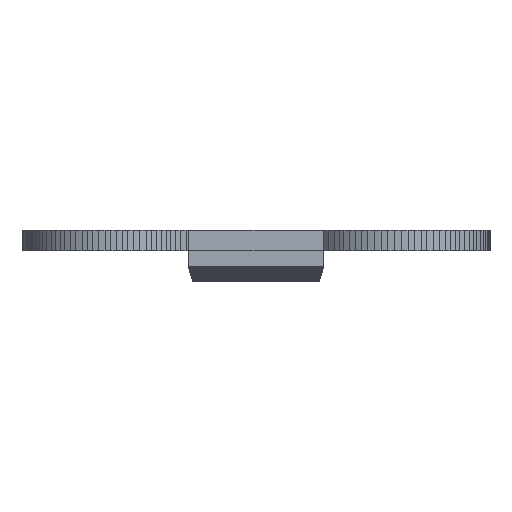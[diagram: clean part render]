
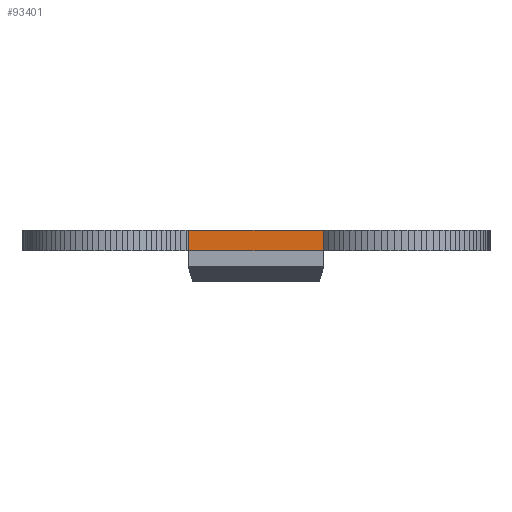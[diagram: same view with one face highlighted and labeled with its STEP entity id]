
A CAD part, front view. The second image highlights one B-rep face of the part: STEP entity #93401.
In plain terms, the highlighted planar face has unit normal (0, -1, 0).
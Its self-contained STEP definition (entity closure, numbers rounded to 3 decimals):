
#32 = PLANE('',#33);
#33 = AXIS2_PLACEMENT_3D('',#34,#35,#36);
#34 = CARTESIAN_POINT('',(0.099,-0.561,10.));
#35 = DIRECTION('',(-0.,-0.,-1.));
#36 = DIRECTION('',(-1.,0.,0.));
#421 = VERTEX_POINT('',#422);
#422 = CARTESIAN_POINT('',(13.,-89.,10.));
#436 = PLANE('',#437);
#437 = AXIS2_PLACEMENT_3D('',#438,#439,#440);
#438 = CARTESIAN_POINT('',(13.,-71.,6.));
#439 = DIRECTION('',(1.,0.,-0.));
#440 = DIRECTION('',(0.,-1.,0.));
#448 = EDGE_CURVE('',#421,#449,#451,.T.);
#449 = VERTEX_POINT('',#450);
#450 = CARTESIAN_POINT('',(-13.,-89.,10.));
#451 = SURFACE_CURVE('',#452,(#456,#463),.PCURVE_S1.);
#452 = LINE('',#453,#454);
#453 = CARTESIAN_POINT('',(13.,-89.,10.));
#454 = VECTOR('',#455,1.);
#455 = DIRECTION('',(-1.,0.,0.));
#456 = PCURVE('',#32,#457);
#457 = DEFINITIONAL_REPRESENTATION('',(#458),#462);
#458 = LINE('',#459,#460);
#459 = CARTESIAN_POINT('',(-12.901,-88.439));
#460 = VECTOR('',#461,1.);
#461 = DIRECTION('',(1.,0.));
#462 = ( GEOMETRIC_REPRESENTATION_CONTEXT(2) 
PARAMETRIC_REPRESENTATION_CONTEXT() REPRESENTATION_CONTEXT('2D SPACE',''
  ) );
#463 = PCURVE('',#464,#469);
#464 = PLANE('',#465);
#465 = AXIS2_PLACEMENT_3D('',#466,#467,#468);
#466 = CARTESIAN_POINT('',(13.,-89.,6.));
#467 = DIRECTION('',(0.,-1.,0.));
#468 = DIRECTION('',(-1.,0.,0.));
#469 = DEFINITIONAL_REPRESENTATION('',(#470),#474);
#470 = LINE('',#471,#472);
#471 = CARTESIAN_POINT('',(0.,-4.));
#472 = VECTOR('',#473,1.);
#473 = DIRECTION('',(1.,0.));
#474 = ( GEOMETRIC_REPRESENTATION_CONTEXT(2) 
PARAMETRIC_REPRESENTATION_CONTEXT() REPRESENTATION_CONTEXT('2D SPACE',''
  ) );
#492 = PLANE('',#493);
#493 = AXIS2_PLACEMENT_3D('',#494,#495,#496);
#494 = CARTESIAN_POINT('',(-13.,-89.,6.));
#495 = DIRECTION('',(-1.,0.,0.));
#496 = DIRECTION('',(0.,1.,0.));
#47907 = PLANE('',#47908);
#47908 = AXIS2_PLACEMENT_3D('',#47909,#47910,#47911);
#47909 = CARTESIAN_POINT('',(0.099,-0.561,6.));
#47910 = DIRECTION('',(-0.,-0.,-1.));
#47911 = DIRECTION('',(-1.,0.,0.));
#48095 = VERTEX_POINT('',#48096);
#48096 = CARTESIAN_POINT('',(13.,-89.,6.));
#48117 = EDGE_CURVE('',#48095,#48118,#48120,.T.);
#48118 = VERTEX_POINT('',#48119);
#48119 = CARTESIAN_POINT('',(-13.,-89.,6.));
#48120 = SURFACE_CURVE('',#48121,(#48125,#48132),.PCURVE_S1.);
#48121 = LINE('',#48122,#48123);
#48122 = CARTESIAN_POINT('',(13.,-89.,6.));
#48123 = VECTOR('',#48124,1.);
#48124 = DIRECTION('',(-1.,0.,0.));
#48125 = PCURVE('',#47907,#48126);
#48126 = DEFINITIONAL_REPRESENTATION('',(#48127),#48131);
#48127 = LINE('',#48128,#48129);
#48128 = CARTESIAN_POINT('',(-12.901,-88.439));
#48129 = VECTOR('',#48130,1.);
#48130 = DIRECTION('',(1.,0.));
#48131 = ( GEOMETRIC_REPRESENTATION_CONTEXT(2) 
PARAMETRIC_REPRESENTATION_CONTEXT() REPRESENTATION_CONTEXT('2D SPACE',''
  ) );
#48132 = PCURVE('',#464,#48133);
#48133 = DEFINITIONAL_REPRESENTATION('',(#48134),#48138);
#48134 = LINE('',#48135,#48136);
#48135 = CARTESIAN_POINT('',(0.,-0.));
#48136 = VECTOR('',#48137,1.);
#48137 = DIRECTION('',(1.,0.));
#48138 = ( GEOMETRIC_REPRESENTATION_CONTEXT(2) 
PARAMETRIC_REPRESENTATION_CONTEXT() REPRESENTATION_CONTEXT('2D SPACE',''
  ) );
#93378 = EDGE_CURVE('',#48118,#449,#93379,.T.);
#93379 = SURFACE_CURVE('',#93380,(#93384,#93391),.PCURVE_S1.);
#93380 = LINE('',#93381,#93382);
#93381 = CARTESIAN_POINT('',(-13.,-89.,6.));
#93382 = VECTOR('',#93383,1.);
#93383 = DIRECTION('',(0.,0.,1.));
#93384 = PCURVE('',#492,#93385);
#93385 = DEFINITIONAL_REPRESENTATION('',(#93386),#93390);
#93386 = LINE('',#93387,#93388);
#93387 = CARTESIAN_POINT('',(0.,0.));
#93388 = VECTOR('',#93389,1.);
#93389 = DIRECTION('',(0.,-1.));
#93390 = ( GEOMETRIC_REPRESENTATION_CONTEXT(2) 
PARAMETRIC_REPRESENTATION_CONTEXT() REPRESENTATION_CONTEXT('2D SPACE',''
  ) );
#93391 = PCURVE('',#464,#93392);
#93392 = DEFINITIONAL_REPRESENTATION('',(#93393),#93397);
#93393 = LINE('',#93394,#93395);
#93394 = CARTESIAN_POINT('',(26.,0.));
#93395 = VECTOR('',#93396,1.);
#93396 = DIRECTION('',(0.,-1.));
#93397 = ( GEOMETRIC_REPRESENTATION_CONTEXT(2) 
PARAMETRIC_REPRESENTATION_CONTEXT() REPRESENTATION_CONTEXT('2D SPACE',''
  ) );
#93401 = ADVANCED_FACE('',(#93402),#464,.T.);
#93402 = FACE_BOUND('',#93403,.T.);
#93403 = EDGE_LOOP('',(#93404,#93425,#93426,#93427));
#93404 = ORIENTED_EDGE('',*,*,#93405,.T.);
#93405 = EDGE_CURVE('',#48095,#421,#93406,.T.);
#93406 = SURFACE_CURVE('',#93407,(#93411,#93418),.PCURVE_S1.);
#93407 = LINE('',#93408,#93409);
#93408 = CARTESIAN_POINT('',(13.,-89.,6.));
#93409 = VECTOR('',#93410,1.);
#93410 = DIRECTION('',(0.,0.,1.));
#93411 = PCURVE('',#464,#93412);
#93412 = DEFINITIONAL_REPRESENTATION('',(#93413),#93417);
#93413 = LINE('',#93414,#93415);
#93414 = CARTESIAN_POINT('',(0.,-0.));
#93415 = VECTOR('',#93416,1.);
#93416 = DIRECTION('',(0.,-1.));
#93417 = ( GEOMETRIC_REPRESENTATION_CONTEXT(2) 
PARAMETRIC_REPRESENTATION_CONTEXT() REPRESENTATION_CONTEXT('2D SPACE',''
  ) );
#93418 = PCURVE('',#436,#93419);
#93419 = DEFINITIONAL_REPRESENTATION('',(#93420),#93424);
#93420 = LINE('',#93421,#93422);
#93421 = CARTESIAN_POINT('',(18.,0.));
#93422 = VECTOR('',#93423,1.);
#93423 = DIRECTION('',(0.,-1.));
#93424 = ( GEOMETRIC_REPRESENTATION_CONTEXT(2) 
PARAMETRIC_REPRESENTATION_CONTEXT() REPRESENTATION_CONTEXT('2D SPACE',''
  ) );
#93425 = ORIENTED_EDGE('',*,*,#448,.T.);
#93426 = ORIENTED_EDGE('',*,*,#93378,.F.);
#93427 = ORIENTED_EDGE('',*,*,#48117,.F.);
